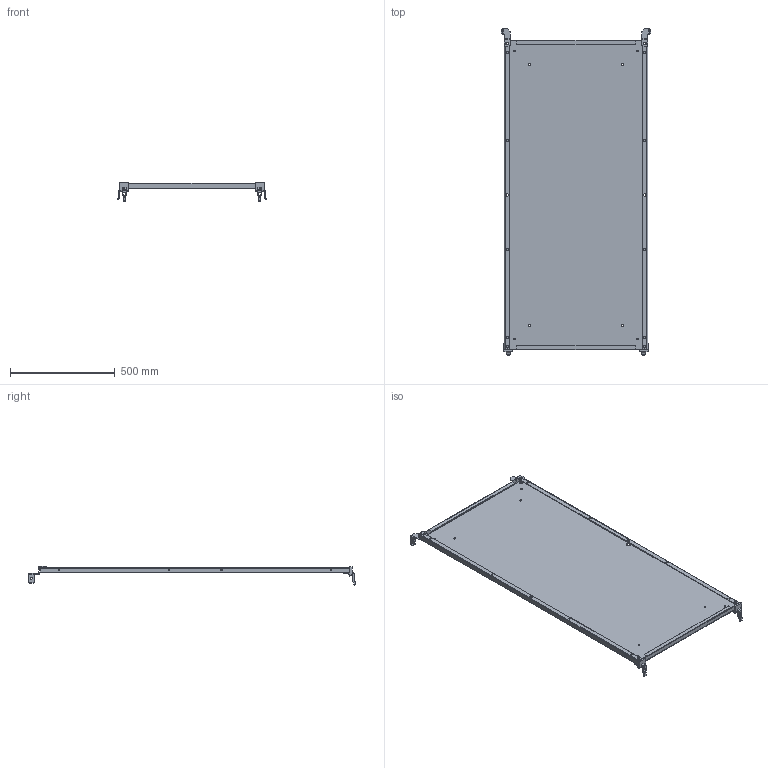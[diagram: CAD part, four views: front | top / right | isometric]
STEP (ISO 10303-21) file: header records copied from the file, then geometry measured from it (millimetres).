
FILE_DESCRIPTION (( 'STEP AP203' ), '1' );
FILE_NAME ('EUPA-080160.STEP', '2017-05-12T13:29:15', ( '' ), ( '' ), 'SwSTEP 2.0', 'SolidWorks 2017', '' );
FILE_SCHEMA (( 'CONFIG_CONTROL_DESIGN' ));
Length unit declared in the file: millimetre
Products named in the file (1): EUPA-080160
Bounding box: 716.2 x 1562.82 x 90.92 mm (x, y, z)
Volume: 3060260.3 mm3; surface area: 2420968 mm2
Topology: 1 solids, 1 shells, 328 faces, 918 edges, 598 vertices
Faces by surface type: plane 204, cylinder 118, bspline 6
Entity records: 10893 total; most frequent: CARTESIAN_POINT 2079, ORIENTED_EDGE 1836, DIRECTION 1788, EDGE_CURVE 918, VECTOR 646, LINE 646, VERTEX_POINT 598, AXIS2_PLACEMENT_3D 571
